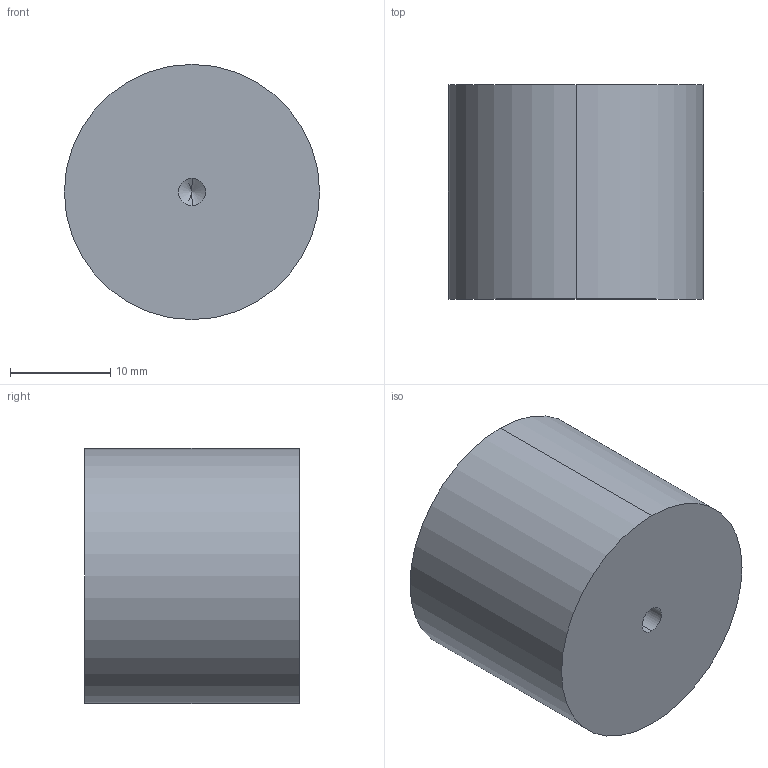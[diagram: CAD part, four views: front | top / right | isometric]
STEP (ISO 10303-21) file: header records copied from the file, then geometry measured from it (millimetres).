
FILE_DESCRIPTION (( 'STEP AP214' ), '1' );
FILE_NAME ('SS1432-2KG-F-F.STEP', '2024-09-04T15:53:23', ( '' ), ( '' ), 'SwSTEP 2.0', 'SolidWorks 2008', '' );
FILE_SCHEMA (( 'AUTOMOTIVE_DESIGN' ));
Length unit declared in the file: inch
Products named in the file (1): SS1432-2KG-F-F
Bounding box: 25.4 x 21.34 x 25.4 mm (x, y, z)
Volume: 10761.3 mm3; surface area: 2786.9 mm2
Topology: 1 solids, 1 shells, 12 faces, 26 edges, 14 vertices
Faces by surface type: cylinder 6, cone 4, plane 2
Entity records: 381 total; most frequent: DIRECTION 60, CARTESIAN_POINT 49, ORIENTED_EDGE 44, AXIS2_PLACEMENT_3D 25, EDGE_CURVE 22, EDGE_LOOP 14, VERTEX_POINT 14, ADVANCED_FACE 12
